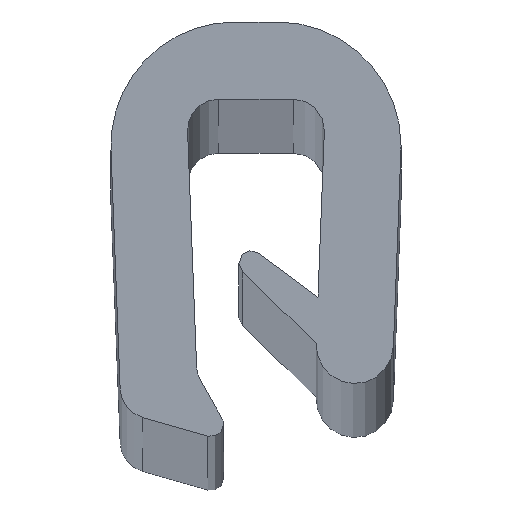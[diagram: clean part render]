
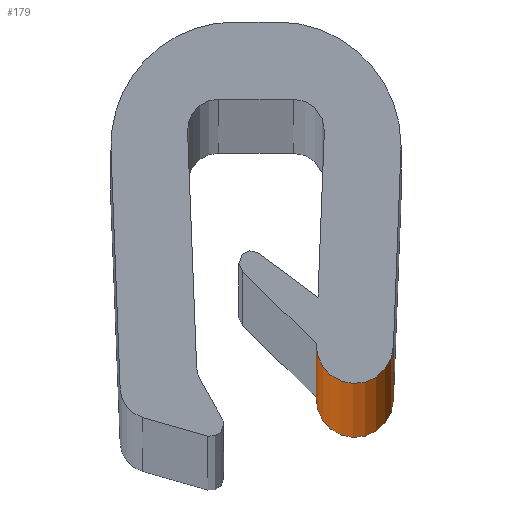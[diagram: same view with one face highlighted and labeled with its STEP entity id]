
A CAD part, top view. The second image highlights one B-rep face of the part: STEP entity #179.
In plain terms, the highlighted cylindrical face has radius 1.25 mm (diameter 2.5 mm), a partial arc.
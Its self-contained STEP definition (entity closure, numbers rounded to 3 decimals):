
#2 = CYLINDRICAL_SURFACE ( 'NONE', #35, 1.25 ) ;
#8 = FACE_OUTER_BOUND ( 'NONE', #797, .T. ) ;
#35 = AXIS2_PLACEMENT_3D ( 'NONE', #338, #336, #340 ) ;
#46 = AXIS2_PLACEMENT_3D ( 'NONE', #453, #451, #449 ) ;
#52 = AXIS2_PLACEMENT_3D ( 'NONE', #386, #381, #379 ) ;
#144 = ORIENTED_EDGE ( 'NONE', *, *, #217, .F. ) ;
#156 = ORIENTED_EDGE ( 'NONE', *, *, #212, .F. ) ;
#179 = ADVANCED_FACE ( 'NONE', ( #8 ), #2, .T. ) ;
#202 = EDGE_CURVE ( 'NONE', #488, #849, #569, .T. ) ;
#212 = EDGE_CURVE ( 'NONE', #488, #842, #559, .T. ) ;
#217 = EDGE_CURVE ( 'NONE', #842, #851, #545, .T. ) ;
#219 = EDGE_CURVE ( 'NONE', #849, #851, #554, .T. ) ;
#336 = DIRECTION ( 'NONE',  ( 0., 0., 1. ) ) ;
#338 = CARTESIAN_POINT ( 'NONE',  ( 3.199, -7.95, -1000. ) ) ;
#340 = DIRECTION ( 'NONE',  ( 1., 0., 0. ) ) ;
#378 = DIRECTION ( 'NONE',  ( 0., 0., 1. ) ) ;
#379 = DIRECTION ( 'NONE',  ( 1., 0., 0. ) ) ;
#381 = DIRECTION ( 'NONE',  ( 0., 0., 1. ) ) ;
#386 = CARTESIAN_POINT ( 'NONE',  ( 3.199, -7.95, 0. ) ) ;
#388 = CARTESIAN_POINT ( 'NONE',  ( 4.448, -7.998, -1000. ) ) ;
#411 = DIRECTION ( 'NONE',  ( 0., 0., 1. ) ) ;
#420 = CARTESIAN_POINT ( 'NONE',  ( 1.95, -7.902, -1000. ) ) ;
#449 = DIRECTION ( 'NONE',  ( 1., 0., 0. ) ) ;
#451 = DIRECTION ( 'NONE',  ( 0., 0., 1. ) ) ;
#453 = CARTESIAN_POINT ( 'NONE',  ( 3.199, -7.95, -1000. ) ) ;
#488 = VERTEX_POINT ( 'NONE', #720 ) ;
#531 = ORIENTED_EDGE ( 'NONE', *, *, #202, .T. ) ;
#533 = ORIENTED_EDGE ( 'NONE', *, *, #219, .T. ) ;
#540 = VECTOR ( 'NONE', #378, 1000. ) ;
#545 = CIRCLE ( 'NONE', #52, 1.25 ) ;
#551 = VECTOR ( 'NONE', #411, 1000. ) ;
#554 = LINE ( 'NONE', #388, #540 ) ;
#559 = LINE ( 'NONE', #420, #551 ) ;
#569 = CIRCLE ( 'NONE', #46, 1.25 ) ;
#678 = CARTESIAN_POINT ( 'NONE',  ( 4.448, -7.998, 0. ) ) ;
#680 = CARTESIAN_POINT ( 'NONE',  ( 4.448, -7.998, -1000. ) ) ;
#692 = CARTESIAN_POINT ( 'NONE',  ( 1.95, -7.902, 0. ) ) ;
#720 = CARTESIAN_POINT ( 'NONE',  ( 1.95, -7.902, -1000. ) ) ;
#797 = EDGE_LOOP ( 'NONE', ( #144, #156, #531, #533 ) ) ;
#842 = VERTEX_POINT ( 'NONE', #692 ) ;
#849 = VERTEX_POINT ( 'NONE', #680 ) ;
#851 = VERTEX_POINT ( 'NONE', #678 ) ;
